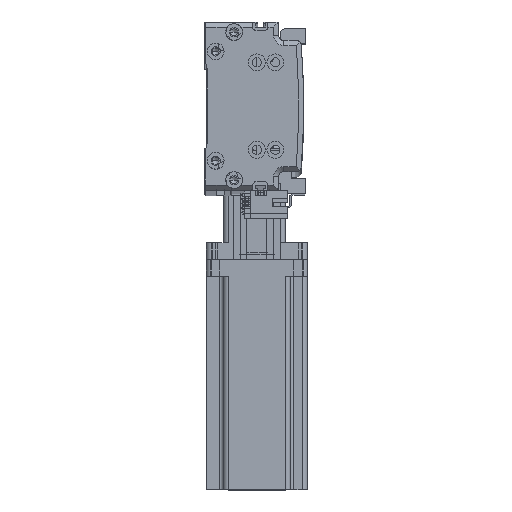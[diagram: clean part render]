
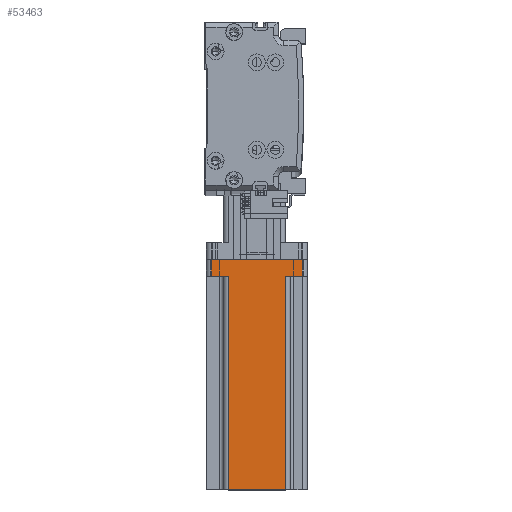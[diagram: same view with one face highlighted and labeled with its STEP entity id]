
A CAD part, top view. The second image highlights one B-rep face of the part: STEP entity #53463.
In plain terms, the highlighted planar face has unit normal (0, 0, 1) as drawn and (0, 1, 0) by its records, which use the part's own axes.
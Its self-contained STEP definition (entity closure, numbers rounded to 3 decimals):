
#484 = LINE ( 'NONE', #6482, #37620 ) ;
#806 = CARTESIAN_POINT ( 'NONE',  ( -20., 30., 10. ) ) ;
#1708 = CARTESIAN_POINT ( 'NONE',  ( 30., 30., 137. ) ) ;
#2222 = ORIENTED_EDGE ( 'NONE', *, *, #10943, .F. ) ;
#2968 = CARTESIAN_POINT ( 'NONE',  ( -27., 30., 0. ) ) ;
#4774 = LINE ( 'NONE', #44545, #41922 ) ;
#6274 = VECTOR ( 'NONE', #9411, 1000. ) ;
#6482 = CARTESIAN_POINT ( 'NONE',  ( 30., 30., 0. ) ) ;
#8084 = EDGE_CURVE ( 'NONE', #59676, #32471, #56864, .T. ) ;
#9381 = DIRECTION ( 'NONE',  ( 0., 0., -1. ) ) ;
#9411 = DIRECTION ( 'NONE',  ( -1., 0., 0. ) ) ;
#10186 = VECTOR ( 'NONE', #34504, 1000. ) ;
#10706 = DIRECTION ( 'NONE',  ( 0., -1., 0. ) ) ;
#10943 = EDGE_CURVE ( 'NONE', #13363, #52461, #24853, .T. ) ;
#12841 = EDGE_CURVE ( 'NONE', #13363, #27763, #4774, .T. ) ;
#13363 = VERTEX_POINT ( 'NONE', #46654 ) ;
#15355 = ORIENTED_EDGE ( 'NONE', *, *, #8084, .T. ) ;
#15572 = DIRECTION ( 'NONE',  ( 0., 0., -1. ) ) ;
#16463 = FACE_OUTER_BOUND ( 'NONE', #60733, .T. ) ;
#20458 = VECTOR ( 'NONE', #35645, 1000. ) ;
#20912 = LINE ( 'NONE', #57695, #32243 ) ;
#21010 = ORIENTED_EDGE ( 'NONE', *, *, #49223, .T. ) ;
#22326 = EDGE_CURVE ( 'NONE', #25430, #45948, #20912, .T. ) ;
#22367 = CARTESIAN_POINT ( 'NONE',  ( 17., 30., 10. ) ) ;
#24853 = LINE ( 'NONE', #1708, #36159 ) ;
#25430 = VERTEX_POINT ( 'NONE', #53091 ) ;
#27763 = VERTEX_POINT ( 'NONE', #22367 ) ;
#32243 = VECTOR ( 'NONE', #9381, 1000. ) ;
#32471 = VERTEX_POINT ( 'NONE', #57346 ) ;
#33504 = CARTESIAN_POINT ( 'NONE',  ( 20., 30., 10. ) ) ;
#34390 = LINE ( 'NONE', #39355, #10186 ) ;
#34504 = DIRECTION ( 'NONE',  ( 0., 0., 1. ) ) ;
#35645 = DIRECTION ( 'NONE',  ( 0., 0., 1. ) ) ;
#36159 = VECTOR ( 'NONE', #55354, 1000. ) ;
#37620 = VECTOR ( 'NONE', #55026, 1000. ) ;
#38361 = CARTESIAN_POINT ( 'NONE',  ( -27., 30., 10. ) ) ;
#39355 = CARTESIAN_POINT ( 'NONE',  ( -27., 30., 137. ) ) ;
#39589 = DIRECTION ( 'NONE',  ( 1., 0., 0. ) ) ;
#39647 = CARTESIAN_POINT ( 'NONE',  ( 30., 30., 137. ) ) ;
#40495 = ORIENTED_EDGE ( 'NONE', *, *, #41444, .T. ) ;
#41444 = EDGE_CURVE ( 'NONE', #32471, #52461, #59147, .T. ) ;
#41922 = VECTOR ( 'NONE', #15572, 1000. ) ;
#43781 = ORIENTED_EDGE ( 'NONE', *, *, #22326, .T. ) ;
#44533 = DIRECTION ( 'NONE',  ( 1., 0., 0. ) ) ;
#44545 = CARTESIAN_POINT ( 'NONE',  ( 17., 30., 137. ) ) ;
#44931 = LINE ( 'NONE', #33504, #6274 ) ;
#44983 = CARTESIAN_POINT ( 'NONE',  ( -17., 30., 137. ) ) ;
#45948 = VERTEX_POINT ( 'NONE', #53390 ) ;
#46654 = CARTESIAN_POINT ( 'NONE',  ( 17., 30., 137. ) ) ;
#47961 = ORIENTED_EDGE ( 'NONE', *, *, #48101, .T. ) ;
#48055 = CARTESIAN_POINT ( 'NONE',  ( -17., 30., 137. ) ) ;
#48101 = EDGE_CURVE ( 'NONE', #45948, #58356, #484, .T. ) ;
#49209 = PLANE ( 'NONE',  #59324 ) ;
#49223 = EDGE_CURVE ( 'NONE', #58356, #59676, #34390, .T. ) ;
#52461 = VERTEX_POINT ( 'NONE', #48055 ) ;
#53091 = CARTESIAN_POINT ( 'NONE',  ( 27., 30., 10. ) ) ;
#53390 = CARTESIAN_POINT ( 'NONE',  ( 27., 30., 0. ) ) ;
#53463 = ADVANCED_FACE ( 'NONE', ( #16463 ), #49209, .F. ) ;
#55026 = DIRECTION ( 'NONE',  ( -1., 0., 0. ) ) ;
#55123 = EDGE_CURVE ( 'NONE', #25430, #27763, #44931, .T. ) ;
#55341 = VECTOR ( 'NONE', #39589, 1000. ) ;
#55354 = DIRECTION ( 'NONE',  ( -1., 0., 0. ) ) ;
#56864 = LINE ( 'NONE', #806, #55341 ) ;
#57346 = CARTESIAN_POINT ( 'NONE',  ( -17., 30., 10. ) ) ;
#57695 = CARTESIAN_POINT ( 'NONE',  ( 27., 30., 137. ) ) ;
#58356 = VERTEX_POINT ( 'NONE', #2968 ) ;
#59147 = LINE ( 'NONE', #44983, #20458 ) ;
#59324 = AXIS2_PLACEMENT_3D ( 'NONE', #39647, #10706, #44533 ) ;
#59676 = VERTEX_POINT ( 'NONE', #38361 ) ;
#60733 = EDGE_LOOP ( 'NONE', ( #15355, #40495, #2222, #62633, #60784, #43781, #47961, #21010 ) ) ;
#60784 = ORIENTED_EDGE ( 'NONE', *, *, #55123, .F. ) ;
#62633 = ORIENTED_EDGE ( 'NONE', *, *, #12841, .T. ) ;
